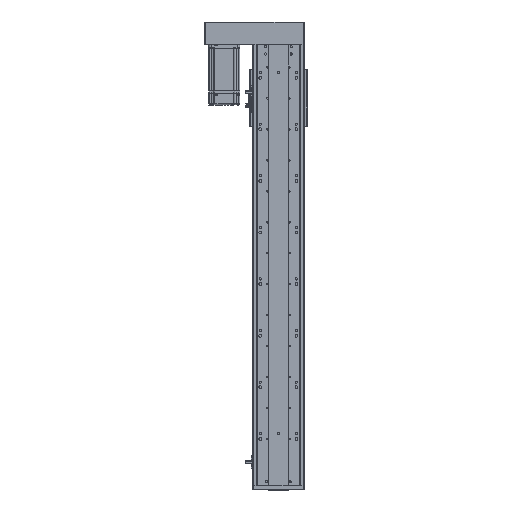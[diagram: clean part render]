
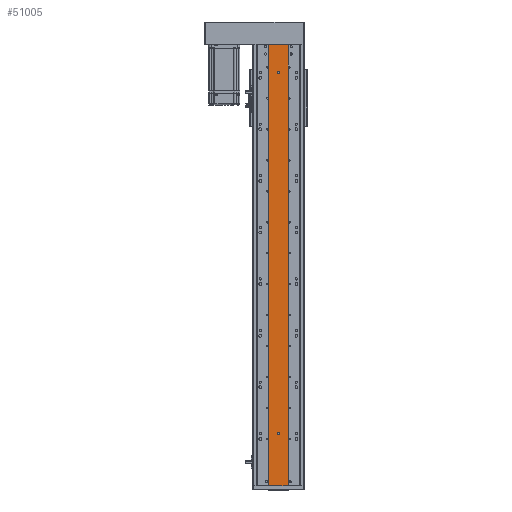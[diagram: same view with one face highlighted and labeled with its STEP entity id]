
A CAD part, top view. The second image highlights one B-rep face of the part: STEP entity #51005.
In plain terms, the highlighted planar face has unit normal (0, 0, 1).
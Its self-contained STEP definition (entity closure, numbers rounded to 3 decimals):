
#31 = VERTEX_POINT ( 'NONE', #4464 ) ;
#1249 = VERTEX_POINT ( 'NONE', #4895 ) ;
#1251 = VERTEX_POINT ( 'NONE', #4908 ) ;
#1326 = VERTEX_POINT ( 'NONE', #4976 ) ;
#1335 = VERTEX_POINT ( 'NONE', #4990 ) ;
#4464 = CARTESIAN_POINT ( 'NONE',  ( -10607.079, 856., -17040.86 ) ) ;
#4895 = CARTESIAN_POINT ( 'NONE',  ( -10623.579, 101., -17040.86 ) ) ;
#4908 = CARTESIAN_POINT ( 'NONE',  ( -10623.579, 801., -17040.86 ) ) ;
#4976 = CARTESIAN_POINT ( 'NONE',  ( -10628.579, 801., -17040.86 ) ) ;
#4990 = CARTESIAN_POINT ( 'NONE',  ( -10628.579, 101., -17040.86 ) ) ;
#8395 = FACE_BOUND ( 'NONE', #11751, .T. ) ;
#8451 = FACE_BOUND ( 'NONE', #11773, .T. ) ;
#8481 = FACE_OUTER_BOUND ( 'NONE', #11721, .T. ) ;
#10347 = CARTESIAN_POINT ( 'NONE',  ( -10607.079, 0., -17040.86 ) ) ;
#10384 = CARTESIAN_POINT ( 'NONE',  ( -10645.079, 0., -17040.86 ) ) ;
#10434 = CARTESIAN_POINT ( 'NONE',  ( -10645.079, 856., -17040.86 ) ) ;
#11721 = EDGE_LOOP ( 'NONE', ( #33847, #33839, #33868, #33824 ) ) ;
#11751 = EDGE_LOOP ( 'NONE', ( #33788, #33764 ) ) ;
#11773 = EDGE_LOOP ( 'NONE', ( #33815, #33771 ) ) ;
#15005 = AXIS2_PLACEMENT_3D ( 'NONE', #17252, #17288, #17145 ) ;
#15069 = AXIS2_PLACEMENT_3D ( 'NONE', #17306, #17309, #17563 ) ;
#15324 = AXIS2_PLACEMENT_3D ( 'NONE', #18856, #18883, #18887 ) ;
#15341 = AXIS2_PLACEMENT_3D ( 'NONE', #18910, #18918, #18911 ) ;
#16456 = AXIS2_PLACEMENT_3D ( 'NONE', #22742, #22757, #22744 ) ;
#17145 = DIRECTION ( 'NONE',  ( -1., 0., 0. ) ) ;
#17252 = CARTESIAN_POINT ( 'NONE',  ( -10626.079, 801., -17040.86 ) ) ;
#17288 = DIRECTION ( 'NONE',  ( 0., 0., -1. ) ) ;
#17306 = CARTESIAN_POINT ( 'NONE',  ( -10626.079, 101., -17040.86 ) ) ;
#17309 = DIRECTION ( 'NONE',  ( 0., 0., -1. ) ) ;
#17563 = DIRECTION ( 'NONE',  ( -1., 0., 0. ) ) ;
#18843 = CARTESIAN_POINT ( 'NONE',  ( -10645.079, 0., -17040.86 ) ) ;
#18844 = DIRECTION ( 'NONE',  ( 1., 0., 0. ) ) ;
#18856 = CARTESIAN_POINT ( 'NONE',  ( -10626.079, 101., -17040.86 ) ) ;
#18883 = DIRECTION ( 'NONE',  ( 0., 0., -1. ) ) ;
#18887 = DIRECTION ( 'NONE',  ( -1., 0., 0. ) ) ;
#18910 = CARTESIAN_POINT ( 'NONE',  ( -10626.079, 801., -17040.86 ) ) ;
#18911 = DIRECTION ( 'NONE',  ( -1., 0., 0. ) ) ;
#18918 = DIRECTION ( 'NONE',  ( 0., 0., -1. ) ) ;
#18932 = DIRECTION ( 'NONE',  ( 0., -1., 0. ) ) ;
#18934 = CARTESIAN_POINT ( 'NONE',  ( -10607.079, 856., -17040.86 ) ) ;
#18935 = CARTESIAN_POINT ( 'NONE',  ( -10645.079, 856., -17040.86 ) ) ;
#18958 = DIRECTION ( 'NONE',  ( 1., 0., 0. ) ) ;
#18988 = CARTESIAN_POINT ( 'NONE',  ( -10645.079, 856., -17040.86 ) ) ;
#19021 = DIRECTION ( 'NONE',  ( 0., -1., 0. ) ) ;
#20002 = CIRCLE ( 'NONE', #15069, 2.5 ) ;
#20012 = CIRCLE ( 'NONE', #15005, 2.5 ) ;
#20555 = VECTOR ( 'NONE', #18844, 1000. ) ;
#20557 = LINE ( 'NONE', #18843, #20555 ) ;
#20561 = CIRCLE ( 'NONE', #15341, 2.5 ) ;
#20570 = VECTOR ( 'NONE', #18958, 1000. ) ;
#20575 = CIRCLE ( 'NONE', #15324, 2.5 ) ;
#20579 = LINE ( 'NONE', #18935, #20570 ) ;
#20589 = VECTOR ( 'NONE', #18932, 1000. ) ;
#20603 = LINE ( 'NONE', #18934, #20589 ) ;
#20615 = VECTOR ( 'NONE', #19021, 1000. ) ;
#20663 = LINE ( 'NONE', #18988, #20615 ) ;
#22729 = PLANE ( 'NONE',  #16456 ) ;
#22742 = CARTESIAN_POINT ( 'NONE',  ( -10645.079, 856., -17040.86 ) ) ;
#22744 = DIRECTION ( 'NONE',  ( -1., 0., 0. ) ) ;
#22757 = DIRECTION ( 'NONE',  ( 0., 0., -1. ) ) ;
#33764 = ORIENTED_EDGE ( 'NONE', *, *, #43673, .T. ) ;
#33771 = ORIENTED_EDGE ( 'NONE', *, *, #43664, .T. ) ;
#33788 = ORIENTED_EDGE ( 'NONE', *, *, #42826, .T. ) ;
#33815 = ORIENTED_EDGE ( 'NONE', *, *, #42843, .T. ) ;
#33824 = ORIENTED_EDGE ( 'NONE', *, *, #43705, .T. ) ;
#33839 = ORIENTED_EDGE ( 'NONE', *, *, #43689, .F. ) ;
#33847 = ORIENTED_EDGE ( 'NONE', *, *, #43648, .T. ) ;
#33868 = ORIENTED_EDGE ( 'NONE', *, *, #43693, .F. ) ;
#42826 = EDGE_CURVE ( 'NONE', #1251, #1326, #20012, .T. ) ;
#42843 = EDGE_CURVE ( 'NONE', #1249, #1335, #20002, .T. ) ;
#43648 = EDGE_CURVE ( 'NONE', #47400, #47395, #20557, .T. ) ;
#43664 = EDGE_CURVE ( 'NONE', #1335, #1249, #20575, .T. ) ;
#43673 = EDGE_CURVE ( 'NONE', #1326, #1251, #20561, .T. ) ;
#43689 = EDGE_CURVE ( 'NONE', #31, #47395, #20603, .T. ) ;
#43693 = EDGE_CURVE ( 'NONE', #47440, #31, #20579, .T. ) ;
#43705 = EDGE_CURVE ( 'NONE', #47440, #47400, #20663, .T. ) ;
#47395 = VERTEX_POINT ( 'NONE', #10347 ) ;
#47400 = VERTEX_POINT ( 'NONE', #10384 ) ;
#47440 = VERTEX_POINT ( 'NONE', #10434 ) ;
#51005 = ADVANCED_FACE ( 'NONE', ( #8395, #8451, #8481 ), #22729, .F. ) ;
